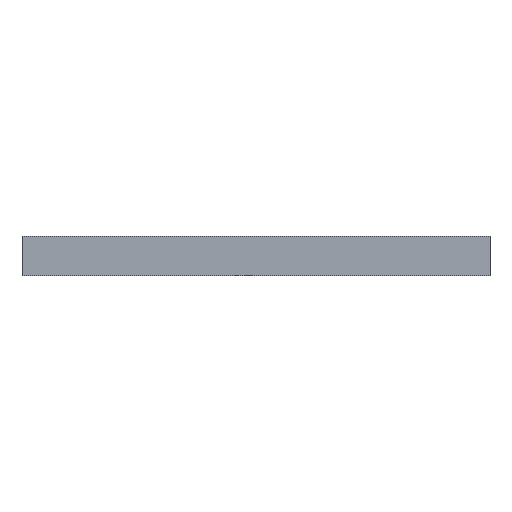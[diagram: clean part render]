
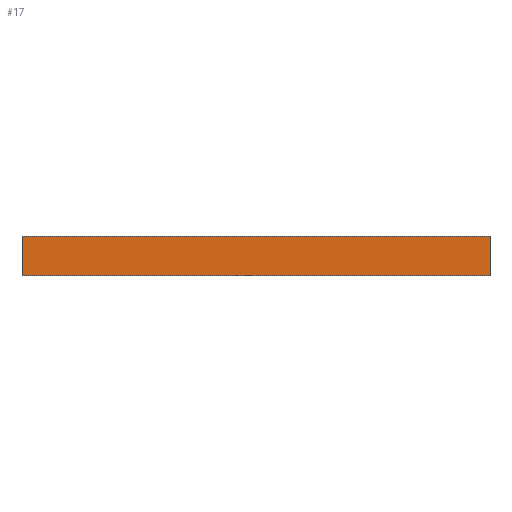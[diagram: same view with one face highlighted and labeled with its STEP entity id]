
A CAD part, left-side view. The second image highlights one B-rep face of the part: STEP entity #17.
In plain terms, the highlighted planar face has unit normal (-1, 0, 0).
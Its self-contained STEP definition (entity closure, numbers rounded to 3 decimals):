
#17 = ADVANCED_FACE('',(#18),#32,.F.);
#18 = FACE_BOUND('',#19,.F.);
#19 = EDGE_LOOP('',(#20,#55,#83,#111));
#20 = ORIENTED_EDGE('',*,*,#21,.F.);
#21 = EDGE_CURVE('',#22,#24,#26,.T.);
#22 = VERTEX_POINT('',#23);
#23 = CARTESIAN_POINT('',(-30.,-30.,0.));
#24 = VERTEX_POINT('',#25);
#25 = CARTESIAN_POINT('',(-30.,-30.,5.));
#26 = SURFACE_CURVE('',#27,(#31,#43),.PCURVE_S1.);
#27 = LINE('',#28,#29);
#28 = CARTESIAN_POINT('',(-30.,-30.,0.));
#29 = VECTOR('',#30,1.);
#30 = DIRECTION('',(0.,0.,1.));
#31 = PCURVE('',#32,#37);
#32 = PLANE('',#33);
#33 = AXIS2_PLACEMENT_3D('',#34,#35,#36);
#34 = CARTESIAN_POINT('',(-30.,-30.,0.));
#35 = DIRECTION('',(1.,0.,0.));
#36 = DIRECTION('',(0.,0.,1.));
#37 = DEFINITIONAL_REPRESENTATION('',(#38),#42);
#38 = LINE('',#39,#40);
#39 = CARTESIAN_POINT('',(0.,0.));
#40 = VECTOR('',#41,1.);
#41 = DIRECTION('',(1.,0.));
#42 = ( GEOMETRIC_REPRESENTATION_CONTEXT(2) 
PARAMETRIC_REPRESENTATION_CONTEXT() REPRESENTATION_CONTEXT('2D SPACE',''
  ) );
#43 = PCURVE('',#44,#49);
#44 = PLANE('',#45);
#45 = AXIS2_PLACEMENT_3D('',#46,#47,#48);
#46 = CARTESIAN_POINT('',(-30.,-30.,0.));
#47 = DIRECTION('',(0.,1.,0.));
#48 = DIRECTION('',(0.,0.,1.));
#49 = DEFINITIONAL_REPRESENTATION('',(#50),#54);
#50 = LINE('',#51,#52);
#51 = CARTESIAN_POINT('',(0.,0.));
#52 = VECTOR('',#53,1.);
#53 = DIRECTION('',(1.,0.));
#54 = ( GEOMETRIC_REPRESENTATION_CONTEXT(2) 
PARAMETRIC_REPRESENTATION_CONTEXT() REPRESENTATION_CONTEXT('2D SPACE',''
  ) );
#55 = ORIENTED_EDGE('',*,*,#56,.T.);
#56 = EDGE_CURVE('',#22,#57,#59,.T.);
#57 = VERTEX_POINT('',#58);
#58 = CARTESIAN_POINT('',(-30.,30.,0.));
#59 = SURFACE_CURVE('',#60,(#64,#71),.PCURVE_S1.);
#60 = LINE('',#61,#62);
#61 = CARTESIAN_POINT('',(-30.,-30.,0.));
#62 = VECTOR('',#63,1.);
#63 = DIRECTION('',(0.,1.,0.));
#64 = PCURVE('',#32,#65);
#65 = DEFINITIONAL_REPRESENTATION('',(#66),#70);
#66 = LINE('',#67,#68);
#67 = CARTESIAN_POINT('',(0.,0.));
#68 = VECTOR('',#69,1.);
#69 = DIRECTION('',(0.,-1.));
#70 = ( GEOMETRIC_REPRESENTATION_CONTEXT(2) 
PARAMETRIC_REPRESENTATION_CONTEXT() REPRESENTATION_CONTEXT('2D SPACE',''
  ) );
#71 = PCURVE('',#72,#77);
#72 = PLANE('',#73);
#73 = AXIS2_PLACEMENT_3D('',#74,#75,#76);
#74 = CARTESIAN_POINT('',(-30.,-30.,0.));
#75 = DIRECTION('',(0.,0.,1.));
#76 = DIRECTION('',(1.,0.,0.));
#77 = DEFINITIONAL_REPRESENTATION('',(#78),#82);
#78 = LINE('',#79,#80);
#79 = CARTESIAN_POINT('',(0.,0.));
#80 = VECTOR('',#81,1.);
#81 = DIRECTION('',(0.,1.));
#82 = ( GEOMETRIC_REPRESENTATION_CONTEXT(2) 
PARAMETRIC_REPRESENTATION_CONTEXT() REPRESENTATION_CONTEXT('2D SPACE',''
  ) );
#83 = ORIENTED_EDGE('',*,*,#84,.T.);
#84 = EDGE_CURVE('',#57,#85,#87,.T.);
#85 = VERTEX_POINT('',#86);
#86 = CARTESIAN_POINT('',(-30.,30.,5.));
#87 = SURFACE_CURVE('',#88,(#92,#99),.PCURVE_S1.);
#88 = LINE('',#89,#90);
#89 = CARTESIAN_POINT('',(-30.,30.,0.));
#90 = VECTOR('',#91,1.);
#91 = DIRECTION('',(0.,0.,1.));
#92 = PCURVE('',#32,#93);
#93 = DEFINITIONAL_REPRESENTATION('',(#94),#98);
#94 = LINE('',#95,#96);
#95 = CARTESIAN_POINT('',(0.,-60.));
#96 = VECTOR('',#97,1.);
#97 = DIRECTION('',(1.,0.));
#98 = ( GEOMETRIC_REPRESENTATION_CONTEXT(2) 
PARAMETRIC_REPRESENTATION_CONTEXT() REPRESENTATION_CONTEXT('2D SPACE',''
  ) );
#99 = PCURVE('',#100,#105);
#100 = PLANE('',#101);
#101 = AXIS2_PLACEMENT_3D('',#102,#103,#104);
#102 = CARTESIAN_POINT('',(-30.,30.,0.));
#103 = DIRECTION('',(0.,1.,0.));
#104 = DIRECTION('',(0.,0.,1.));
#105 = DEFINITIONAL_REPRESENTATION('',(#106),#110);
#106 = LINE('',#107,#108);
#107 = CARTESIAN_POINT('',(0.,0.));
#108 = VECTOR('',#109,1.);
#109 = DIRECTION('',(1.,0.));
#110 = ( GEOMETRIC_REPRESENTATION_CONTEXT(2) 
PARAMETRIC_REPRESENTATION_CONTEXT() REPRESENTATION_CONTEXT('2D SPACE',''
  ) );
#111 = ORIENTED_EDGE('',*,*,#112,.F.);
#112 = EDGE_CURVE('',#24,#85,#113,.T.);
#113 = SURFACE_CURVE('',#114,(#118,#125),.PCURVE_S1.);
#114 = LINE('',#115,#116);
#115 = CARTESIAN_POINT('',(-30.,-30.,5.));
#116 = VECTOR('',#117,1.);
#117 = DIRECTION('',(0.,1.,0.));
#118 = PCURVE('',#32,#119);
#119 = DEFINITIONAL_REPRESENTATION('',(#120),#124);
#120 = LINE('',#121,#122);
#121 = CARTESIAN_POINT('',(5.,0.));
#122 = VECTOR('',#123,1.);
#123 = DIRECTION('',(0.,-1.));
#124 = ( GEOMETRIC_REPRESENTATION_CONTEXT(2) 
PARAMETRIC_REPRESENTATION_CONTEXT() REPRESENTATION_CONTEXT('2D SPACE',''
  ) );
#125 = PCURVE('',#126,#131);
#126 = PLANE('',#127);
#127 = AXIS2_PLACEMENT_3D('',#128,#129,#130);
#128 = CARTESIAN_POINT('',(-30.,-30.,5.));
#129 = DIRECTION('',(0.,0.,1.));
#130 = DIRECTION('',(1.,0.,0.));
#131 = DEFINITIONAL_REPRESENTATION('',(#132),#136);
#132 = LINE('',#133,#134);
#133 = CARTESIAN_POINT('',(0.,0.));
#134 = VECTOR('',#135,1.);
#135 = DIRECTION('',(0.,1.));
#136 = ( GEOMETRIC_REPRESENTATION_CONTEXT(2) 
PARAMETRIC_REPRESENTATION_CONTEXT() REPRESENTATION_CONTEXT('2D SPACE',''
  ) );
